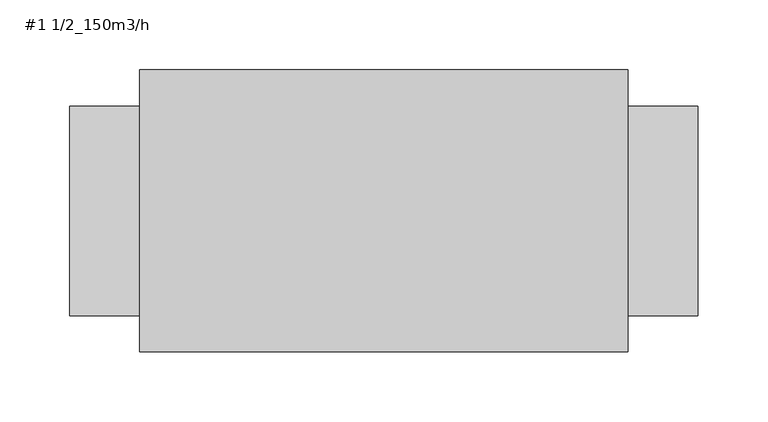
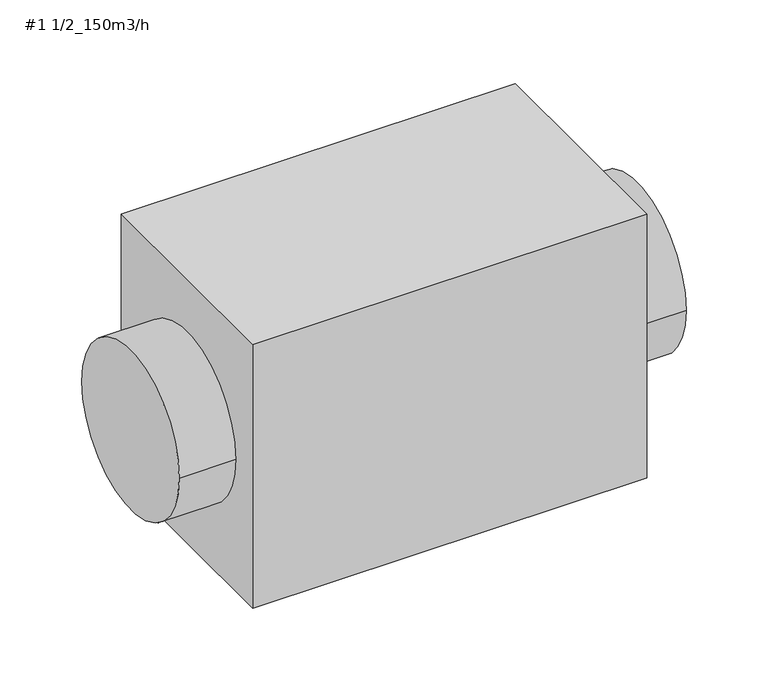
"""IFC4 building model written with IfcOpenShell, lengths in millimetres: unitary equipment geometry, 11021_FAN_斜流送風機 : #1 1/2_150m3/h."""

from ifc_helpers import new_model, si_unit, point, frame, origin, origin_2d, place, context, project, spatial, polyline, circle_curve, trimmed, segment, composite_curve, outline, extrude, source, transform, mapped, element, save


def unitary_equipment_1_1_2_150m3_h_d594a744(model_context):
    return source(origin(), model_context, "Body", "SweptSolid", [
        extrude(outline(composite_curve([segment(trimmed(circle_curve(origin_2d(), 75.0), [point((-75.0, 0.0))], [point((75.0, 0.0))], False, "CARTESIAN"), True, "CONTINUOUS"), segment(trimmed(circle_curve(origin_2d(), 75.0), [point((75.0, 0.0))], [point((-75.0, 0.0))], False, "CARTESIAN"), True, "CONTINUOUS")], self_intersect=False)), frame((175.0, 0.0, 0.0), z_axis=(1.0, 0.0, 0.0), x_axis=(0.0, 1.0, 0.0)), (0.0, 0.0, 1.0), 50.0),
        extrude(outline(composite_curve([segment(trimmed(circle_curve(origin_2d(), 75.0), [point((-75.0, 0.0))], [point((75.0, 0.0))], False, "CARTESIAN"), True, "CONTINUOUS"), segment(trimmed(circle_curve(origin_2d(), 75.0), [point((75.0, 0.0))], [point((-75.0, 0.0))], False, "CARTESIAN"), True, "CONTINUOUS")], self_intersect=False)), frame((-225.0, 0.0, 0.0), z_axis=(1.0, 0.0, 0.0), x_axis=(0.0, 1.0, 0.0)), (0.0, 0.0, 1.0), 50.0),
        extrude(outline(polyline([(175.0, -101.0), (-175.0, -101.0), (-175.0, 101.0), (175.0, 101.0), (175.0, -101.0)])), frame((0.0, 0.0, -124.0), z_axis=(0.0, 0.0, 1.0), x_axis=(1.0, 0.0, 0.0)), (0.0, 0.0, 1.0), 248.0),
    ])


if __name__ == "__main__":
    model = new_model("IFC4")
    model_context = context("Model", 3, world=origin())
    ifc_project = project(units=[si_unit("LENGTHUNIT", "METRE", prefix="MILLI")], contexts=[model_context])
    site = spatial("IfcSite", under=ifc_project)
    building = spatial("IfcBuilding", under=site)
    placement = place(None, origin())
    unitary_equipment_1_1_2_150m3_h_shape = unitary_equipment_1_1_2_150m3_h_d594a744(model_context)
    element("IfcUnitaryEquipment", 1, ObjectType="11021_FAN_斜流送風機 : #1 1/2_150m3/h", at=placement, inside=building, context=model_context, shape_type="MappedRepresentation", body=[
        mapped(unitary_equipment_1_1_2_150m3_h_shape, transform((0.0, 0.0, 0.0), x_axis=(1.0, 0.0, 0.0), y_axis=(0.0, 1.0, 0.0), z_axis=(0.0, 0.0, 1.0))),
    ])
    save(model, "model.ifc")
